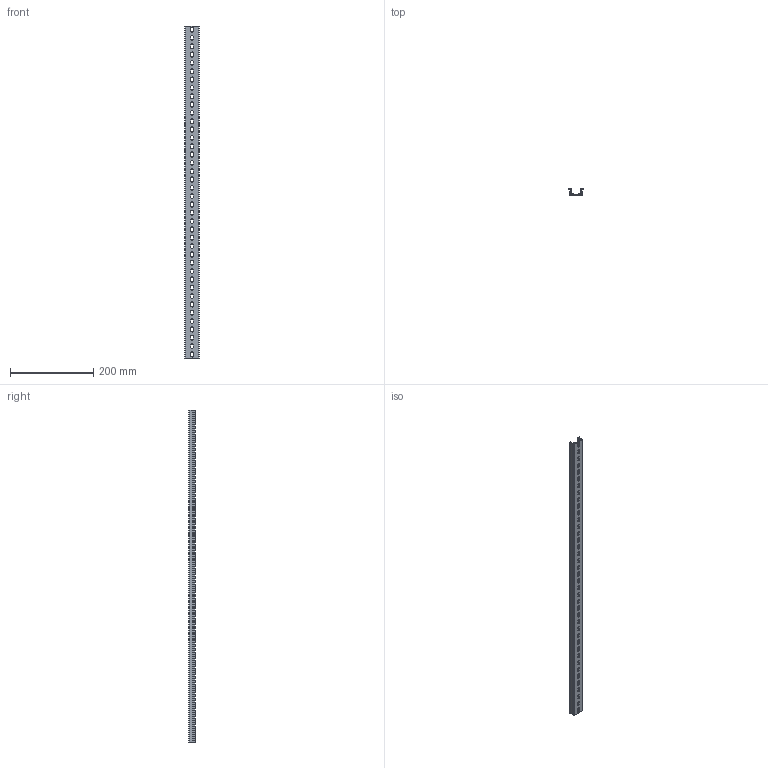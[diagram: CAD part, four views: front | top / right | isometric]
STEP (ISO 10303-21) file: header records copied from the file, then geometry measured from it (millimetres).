
FILE_DESCRIPTION(/* description */ (''),/* implementation_level */ '2;1');
FILE_NAME(/* name */ '22650-(TKB KD-40)HP 3D.stp',/* time_stamp */ '2024-12-05T14:23:28+09:00',/* author */ ('usercadg104'),/* organization */ (''),/* preprocessor_version */ 'ST-DEVELOPER v19.2',/* originating_system */ 'Autodesk Inventor 2023',/* authorisation */ '');
FILE_SCHEMA (('CONFIG_CONTROL_DESIGN'));
Length unit declared in the file: millimetre
Products named in the file (1): TKB KD-3(林)
Bounding box: 35 x 15 x 797 mm (x, y, z)
Volume: 93248.1 mm3; surface area: 107673.4 mm2
Topology: 1 solids, 1 shells, 200 faces, 594 edges, 396 vertices
Faces by surface type: plane 116, cylinder 84
Entity records: 6929 total; most frequent: CARTESIAN_POINT 1191, ORIENTED_EDGE 1188, DIRECTION 1164, EDGE_CURVE 594, LINE 426, VECTOR 426, VERTEX_POINT 396, AXIS2_PLACEMENT_3D 369
